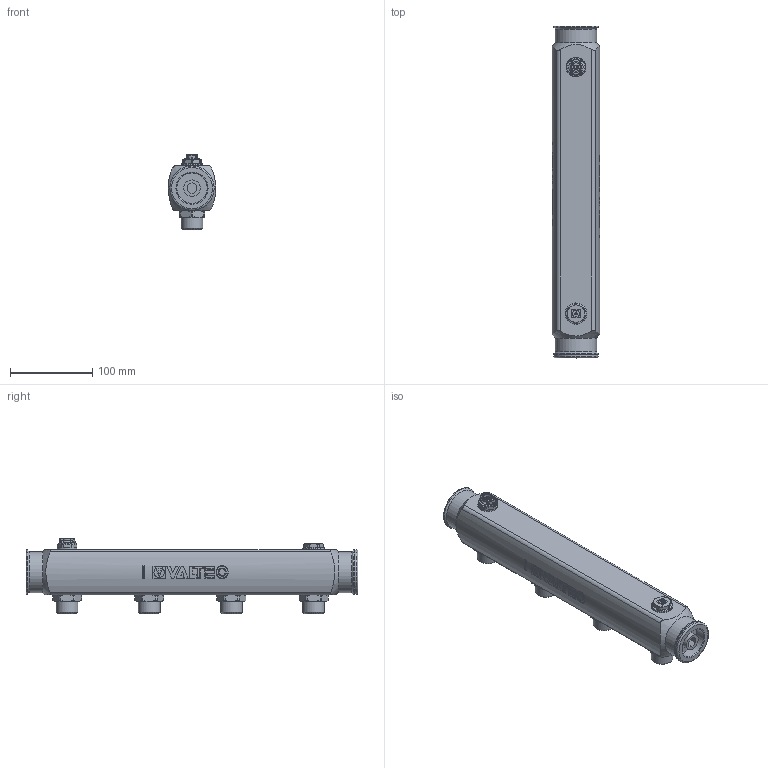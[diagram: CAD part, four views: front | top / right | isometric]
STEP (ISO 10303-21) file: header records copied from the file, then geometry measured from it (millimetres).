
FILE_DESCRIPTION(('STEP AP203'), '1');
FILE_NAME('VTc.510.SS.080504', '', ('UNSPECIFIED'), ('UNSPECIFIED'), 'C3D Converter', 'C3D Toolkit', '');
FILE_SCHEMA(('CONFIG_CONTROL_DESIGN'));
Length unit declared in the file: millimetre
Bounding box: 58 x 404 x 91.6 mm (x, y, z)
Volume: 1132822.6 mm3; surface area: 105951.4 mm2
Topology: 1 solids, 12 shells, 881 faces, 2218 edges, 1428 vertices
Faces by surface type: plane 362, extrusion 216, cylinder 129, cone 97, bspline 60, torus 17
Full cylindrical faces by diameter (mm): 5 x1, 10.2 x1, 19.5 x4, 20 x1, 22 x1, 24 x1, 26 x1, 26.441 x4, 37 x1, 44.85 x1, 50 x2, 54 x3
Entity records: 47894 total; most frequent: CARTESIAN_POINT 28987, ORIENTED_EDGE 4274, DIRECTION 3011, EDGE_CURVE 2139, VERTEX_POINT 1413, VECTOR 1103, B_SPLINE_CURVE_WITH_KNOTS 1037, EDGE_LOOP 983
